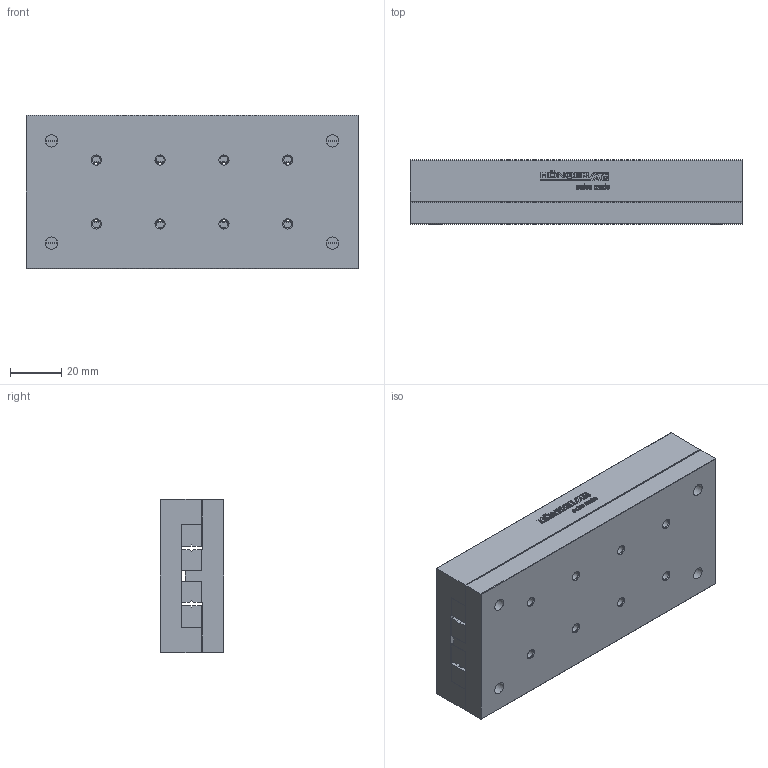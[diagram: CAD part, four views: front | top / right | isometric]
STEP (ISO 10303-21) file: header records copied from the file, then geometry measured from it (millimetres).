
FILE_DESCRIPTION(/* description */ ('STEP AP214'),/* implementation_level */ '2;1');
FILE_NAME(/* name */ 'NKL 3-130(0)',/* time_stamp */ '2025-04-23T07:59:42+02:00',/* author */ ('License CC BY-ND 4.0'),/* organization */ ('CADENAS'),/* preprocessor_version */ 'ST-DEVELOPER v19.3',/* originating_system */ 'PARTsolutions',/* authorisation */ ' ');
FILE_SCHEMA (('AUTOMOTIVE_DESIGN {1 0 10303 214 3 1 1}'));
Length unit declared in the file: millimetre
Products named in the file (3): NKL 3-130(0); NKL 3-130_1; NKL 3-130_2
Assembly tree (2 placements, depth 2):
  NKL 3-130(0)
    NKL 3-130_1
    NKL 3-130_2
Bounding box: 130 x 25 x 60 mm (x, y, z)
Volume: 187631.7 mm3; surface area: 54912.5 mm2
Topology: 2 solids, 2 shells, 637 faces, 1760 edges, 1152 vertices
Faces by surface type: cylinder 316, plane 289, cone 32
Full cylindrical faces by diameter (mm): 3.242 x16, 4.8 x4, 8 x4
Entity records: 20257 total; most frequent: DIRECTION 3648, CARTESIAN_POINT 3480, ORIENTED_EDGE 3392, EDGE_CURVE 1696, AXIS2_PLACEMENT_3D 1312, VERTEX_POINT 1144, LINE 1024, VECTOR 1024
